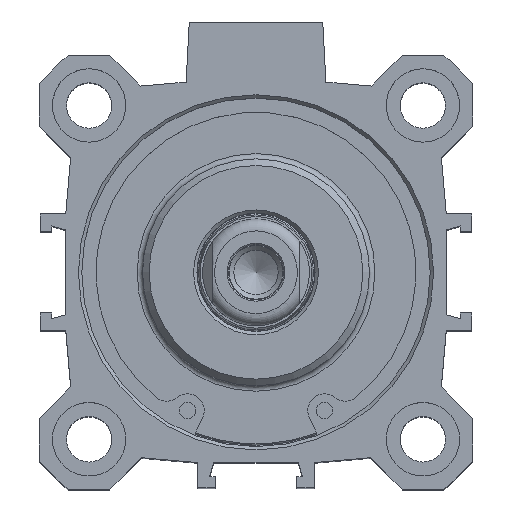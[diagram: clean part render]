
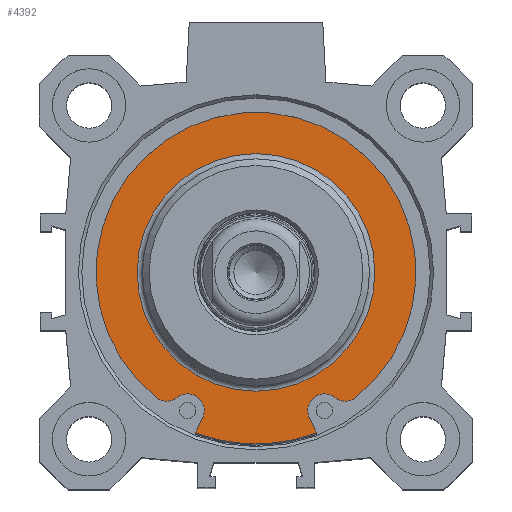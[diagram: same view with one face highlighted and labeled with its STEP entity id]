
A CAD part, top view. The second image highlights one B-rep face of the part: STEP entity #4392.
In plain terms, the highlighted planar face has unit normal (0, 0, 1).
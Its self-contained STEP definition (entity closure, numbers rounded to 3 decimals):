
#66=LINE('',#5953,#288);
#67=LINE('',#5955,#289);
#288=VECTOR('',#5016,1000.);
#289=VECTOR('',#5017,1000.);
#512=PLANE('',#4627);
#665=ORIENTED_EDGE('',*,*,#1430,.F.);
#666=ORIENTED_EDGE('',*,*,#1431,.T.);
#667=ORIENTED_EDGE('',*,*,#1425,.T.);
#668=ORIENTED_EDGE('',*,*,#1432,.T.);
#669=ORIENTED_EDGE('',*,*,#1433,.T.);
#670=ORIENTED_EDGE('',*,*,#1434,.T.);
#671=ORIENTED_EDGE('',*,*,#1435,.T.);
#672=ORIENTED_EDGE('',*,*,#1436,.T.);
#673=ORIENTED_EDGE('',*,*,#1437,.T.);
#1425=EDGE_CURVE('',#1811,#1810,#2104,.T.);
#1430=EDGE_CURVE('',#1816,#1816,#2109,.T.);
#1431=EDGE_CURVE('',#1817,#1811,#66,.T.);
#1432=EDGE_CURVE('',#1810,#1818,#67,.T.);
#1433=EDGE_CURVE('',#1818,#1819,#2110,.T.);
#1434=EDGE_CURVE('',#1819,#1820,#2111,.T.);
#1435=EDGE_CURVE('',#1820,#1821,#2112,.T.);
#1436=EDGE_CURVE('',#1821,#1822,#2113,.T.);
#1437=EDGE_CURVE('',#1822,#1817,#2114,.T.);
#1810=VERTEX_POINT('',#5935);
#1811=VERTEX_POINT('',#5936);
#1816=VERTEX_POINT('',#5952);
#1817=VERTEX_POINT('',#5954);
#1818=VERTEX_POINT('',#5956);
#1819=VERTEX_POINT('',#5958);
#1820=VERTEX_POINT('',#5960);
#1821=VERTEX_POINT('',#5962);
#1822=VERTEX_POINT('',#5964);
#2104=CIRCLE('',#4618,25.7);
#2109=CIRCLE('',#4628,17.8);
#2110=CIRCLE('',#4629,2.5);
#2111=CIRCLE('',#4630,2.5);
#2112=CIRCLE('',#4631,23.975);
#2113=CIRCLE('',#4632,2.5);
#2114=CIRCLE('',#4633,2.5);
#2267=EDGE_LOOP('',(#665));
#2268=EDGE_LOOP('',(#666,#667,#668,#669,#670,#671,#672,#673));
#2589=FACE_BOUND('',#2267,.T.);
#2590=FACE_BOUND('',#2268,.T.);
#4392=ADVANCED_FACE('',(#2589,#2590),#512,.T.);
#4618=AXIS2_PLACEMENT_3D('',#5937,#4994,#4995);
#4627=AXIS2_PLACEMENT_3D('',#5950,#5012,#5013);
#4628=AXIS2_PLACEMENT_3D('',#5951,#5014,#5015);
#4629=AXIS2_PLACEMENT_3D('',#5957,#5018,#5019);
#4630=AXIS2_PLACEMENT_3D('',#5959,#5020,#5021);
#4631=AXIS2_PLACEMENT_3D('',#5961,#5022,#5023);
#4632=AXIS2_PLACEMENT_3D('',#5963,#5024,#5025);
#4633=AXIS2_PLACEMENT_3D('',#5965,#5026,#5027);
#4994=DIRECTION('',(0.,0.,1.));
#4995=DIRECTION('',(0.,1.,0.));
#5012=DIRECTION('',(0.,0.,1.));
#5013=DIRECTION('',(1.,0.,0.));
#5014=DIRECTION('',(0.,0.,1.));
#5015=DIRECTION('',(0.,-1.,0.));
#5016=DIRECTION('',(-0.424,-0.906,0.));
#5017=DIRECTION('',(-0.424,0.906,0.));
#5018=DIRECTION('',(0.,0.,-1.));
#5019=DIRECTION('',(0.627,0.779,0.));
#5020=DIRECTION('',(0.,0.,1.));
#5021=DIRECTION('',(0.627,0.779,0.));
#5022=DIRECTION('',(0.,0.,1.));
#5023=DIRECTION('',(-0.623,0.782,0.));
#5024=DIRECTION('',(0.,0.,1.));
#5025=DIRECTION('',(0.623,0.782,0.));
#5026=DIRECTION('',(0.,0.,-1.));
#5027=DIRECTION('',(0.906,-0.424,0.));
#5935=CARTESIAN_POINT('',(9.053,-24.053,79.4));
#5936=CARTESIAN_POINT('',(-9.053,-24.053,79.4));
#5937=CARTESIAN_POINT('',(0.,0.,79.4));
#5950=CARTESIAN_POINT('',(0.,21.35,79.4));
#5951=CARTESIAN_POINT('',(0.,0.,79.4));
#5952=CARTESIAN_POINT('',(0.,17.8,79.4));
#5953=CARTESIAN_POINT('',(-7.978,-21.756,79.4));
#5954=CARTESIAN_POINT('',(-7.978,-21.756,79.4));
#5955=CARTESIAN_POINT('',(9.053,-24.053,79.4));
#5956=CARTESIAN_POINT('',(7.978,-21.756,79.4));
#5957=CARTESIAN_POINT('',(10.242,-20.696,79.4));
#5958=CARTESIAN_POINT('',(11.809,-18.748,79.4));
#5959=CARTESIAN_POINT('',(13.376,-16.8,79.4));
#5960=CARTESIAN_POINT('',(14.933,-18.756,79.4));
#5961=CARTESIAN_POINT('',(0.,0.,79.4));
#5962=CARTESIAN_POINT('',(-14.933,-18.756,79.4));
#5963=CARTESIAN_POINT('',(-13.376,-16.8,79.4));
#5964=CARTESIAN_POINT('',(-11.809,-18.748,79.4));
#5965=CARTESIAN_POINT('',(-10.242,-20.696,79.4));
